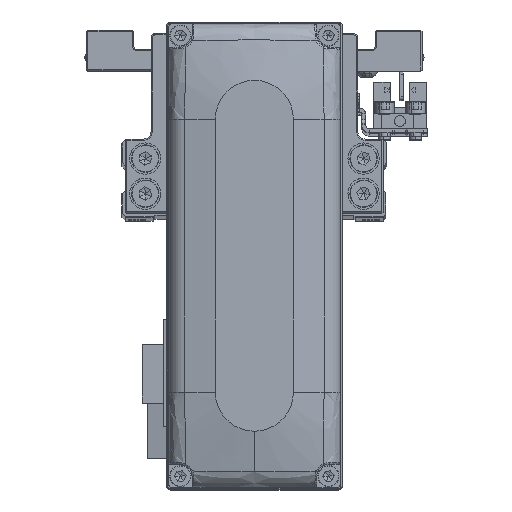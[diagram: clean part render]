
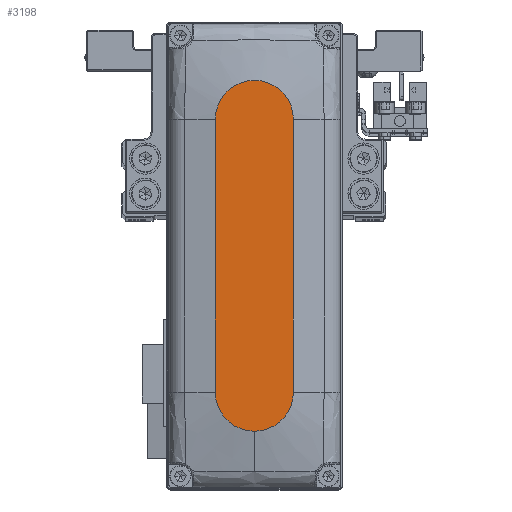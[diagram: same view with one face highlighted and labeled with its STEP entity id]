
A CAD part, top view. The second image highlights one B-rep face of the part: STEP entity #3198.
In plain terms, the highlighted planar face has unit normal (0, 0, 1).
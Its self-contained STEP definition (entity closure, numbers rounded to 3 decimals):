
#187 = EDGE_CURVE ( 'NONE', #11304, #22806, #20543, .T. ) ;
#1342 = DIRECTION ( 'NONE',  ( 1., 0., 0. ) ) ;
#2597 = VECTOR ( 'NONE', #39520, 1000. ) ;
#2875 = DIRECTION ( 'NONE',  ( 1., 0., 0. ) ) ;
#3198 = ADVANCED_FACE ( 'NONE', ( #32162 ), #4381, .T. ) ;
#3216 = VERTEX_POINT ( 'NONE', #10651 ) ;
#3681 = VERTEX_POINT ( 'NONE', #32507 ) ;
#4381 = PLANE ( 'NONE',  #7602 ) ;
#4760 = DIRECTION ( 'NONE',  ( 1., 0., 0. ) ) ;
#5120 = DIRECTION ( 'NONE',  ( -1., 0., 0. ) ) ;
#6068 = CIRCLE ( 'NONE', #11227, 10. ) ;
#6629 = EDGE_LOOP ( 'NONE', ( #31904, #23601, #12989, #39649, #30873 ) ) ;
#7602 = AXIS2_PLACEMENT_3D ( 'NONE', #16747, #29122, #1342 ) ;
#10392 = DIRECTION ( 'NONE',  ( 0., 0., 1. ) ) ;
#10651 = CARTESIAN_POINT ( 'NONE',  ( -35., -10., 28. ) ) ;
#11227 = AXIS2_PLACEMENT_3D ( 'NONE', #18293, #30665, #2875 ) ;
#11304 = VERTEX_POINT ( 'NONE', #20482 ) ;
#12989 = ORIENTED_EDGE ( 'NONE', *, *, #19943, .T. ) ;
#14270 = VERTEX_POINT ( 'NONE', #31736 ) ;
#14770 = LINE ( 'NONE', #27145, #2597 ) ;
#15992 = EDGE_CURVE ( 'NONE', #22806, #3216, #30584, .T. ) ;
#16747 = CARTESIAN_POINT ( 'NONE',  ( 0., 0., 28. ) ) ;
#16820 = CARTESIAN_POINT ( 'NONE',  ( -35., 10., 28. ) ) ;
#17887 = AXIS2_PLACEMENT_3D ( 'NONE', #20190, #32545, #4760 ) ;
#18293 = CARTESIAN_POINT ( 'NONE',  ( 35., 0., 28. ) ) ;
#19943 = EDGE_CURVE ( 'NONE', #3216, #3681, #14770, .T. ) ;
#20190 = CARTESIAN_POINT ( 'NONE',  ( 35., 0., 28. ) ) ;
#20482 = CARTESIAN_POINT ( 'NONE',  ( 35., 10., 28. ) ) ;
#20543 = LINE ( 'NONE', #32900, #23184 ) ;
#22776 = DIRECTION ( 'NONE',  ( 1., 0., 0. ) ) ;
#22806 = VERTEX_POINT ( 'NONE', #16820 ) ;
#23184 = VECTOR ( 'NONE', #5120, 1000. ) ;
#23601 = ORIENTED_EDGE ( 'NONE', *, *, #15992, .T. ) ;
#27145 = CARTESIAN_POINT ( 'NONE',  ( -35., -10., 28. ) ) ;
#29122 = DIRECTION ( 'NONE',  ( 0., 0., 1. ) ) ;
#30584 = CIRCLE ( 'NONE', #35753, 10. ) ;
#30665 = DIRECTION ( 'NONE',  ( 0., 0., 1. ) ) ;
#30873 = ORIENTED_EDGE ( 'NONE', *, *, #31011, .T. ) ;
#31011 = EDGE_CURVE ( 'NONE', #14270, #11304, #35363, .T. ) ;
#31736 = CARTESIAN_POINT ( 'NONE',  ( 45., 0., 28. ) ) ;
#31904 = ORIENTED_EDGE ( 'NONE', *, *, #187, .T. ) ;
#32162 = FACE_OUTER_BOUND ( 'NONE', #6629, .T. ) ;
#32507 = CARTESIAN_POINT ( 'NONE',  ( 35., -10., 28. ) ) ;
#32545 = DIRECTION ( 'NONE',  ( 0., 0., 1. ) ) ;
#32900 = CARTESIAN_POINT ( 'NONE',  ( -35., 10., 28. ) ) ;
#35363 = CIRCLE ( 'NONE', #17887, 10. ) ;
#35753 = AXIS2_PLACEMENT_3D ( 'NONE', #38182, #10392, #22776 ) ;
#38182 = CARTESIAN_POINT ( 'NONE',  ( -35., 0., 28. ) ) ;
#39520 = DIRECTION ( 'NONE',  ( 1., 0., 0. ) ) ;
#39649 = ORIENTED_EDGE ( 'NONE', *, *, #39959, .T. ) ;
#39959 = EDGE_CURVE ( 'NONE', #3681, #14270, #6068, .T. ) ;
